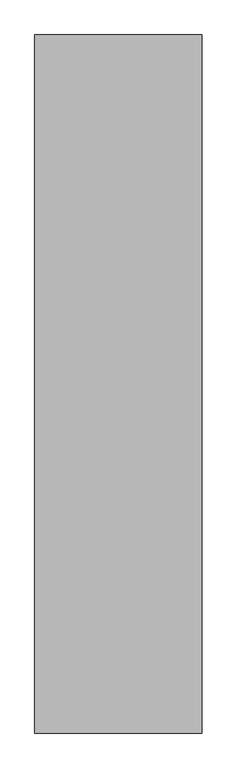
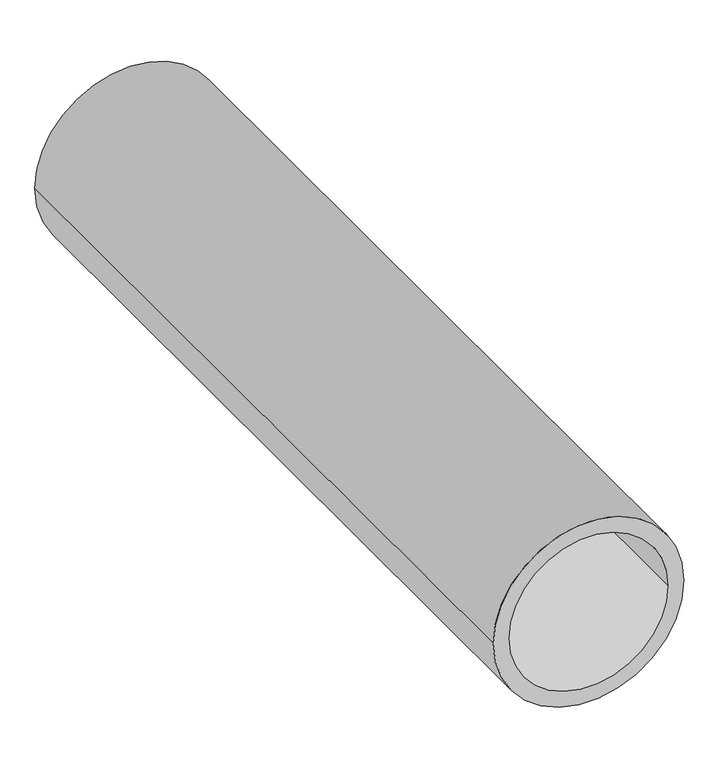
"""IFC4 building model written with IfcOpenShell, lengths in millimetres: proxy geometry, Fluchtröhre : Fluchtröhre."""

from ifc_helpers import new_model, si_unit, point, frame, frame_2d, origin, place, context, project, spatial, circle_curve, trimmed, segment, composite_curve, outline, extrude, source, transform, mapped, element, save


def generic_models_fbec03f0(model_context):
    return source(origin(), model_context, "Body", "SweptSolid", [
        extrude(outline(composite_curve([segment(trimmed(circle_curve(frame_2d((-3625.0, 0.0)), 600.0), [point((-3625.0, -600.0))], [point((-3625.0, 600.0))], False, "CARTESIAN"), True, "CONTINUOUS"), segment(trimmed(circle_curve(frame_2d((-3625.0, 0.0)), 600.0), [point((-3625.0, 600.0))], [point((-3625.0, -600.0))], False, "CARTESIAN"), True, "CONTINUOUS")], self_intersect=False), holes=[composite_curve([segment(trimmed(circle_curve(frame_2d((-3625.0, 0.0)), 500.0), [point((-3625.0, -500.0))], [point((-3625.0, 500.0))], True, "CARTESIAN"), True, "CONTINUOUS"), segment(trimmed(circle_curve(frame_2d((-3625.0, 0.0)), 500.0), [point((-3625.0, 500.0))], [point((-3625.0, -500.0))], True, "CARTESIAN"), True, "CONTINUOUS")], self_intersect=False)]), frame((0.0, -5700.0, 0.0), z_axis=(0.0, 1.0, 0.0), x_axis=(0.0, 0.0, 1.0)), (0.0, 0.0, 1.0), 5000.0),
    ])


if __name__ == "__main__":
    model = new_model("IFC4")
    model_context = context("Model", 3, world=origin())
    ifc_project = project(units=[si_unit("LENGTHUNIT", "METRE", prefix="MILLI")], contexts=[model_context])
    site = spatial("IfcSite", under=ifc_project)
    building = spatial("IfcBuilding", under=site)
    placement = place(None, origin())
    generic_models_shape = generic_models_fbec03f0(model_context)
    element("IfcBuildingElementProxy", 1, Name="Fluchtröhre : Fluchtröhre", ObjectType="Fluchtröhre : Fluchtröhre", at=placement, inside=building, context=model_context, shape_type="MappedRepresentation", body=[
        mapped(generic_models_shape, transform((0.0, 0.0, 0.0), x_axis=(1.0, 0.0, 0.0), y_axis=(0.0, 1.0, 0.0), z_axis=(0.0, 0.0, 1.0))),
    ])
    save(model, "model.ifc")
